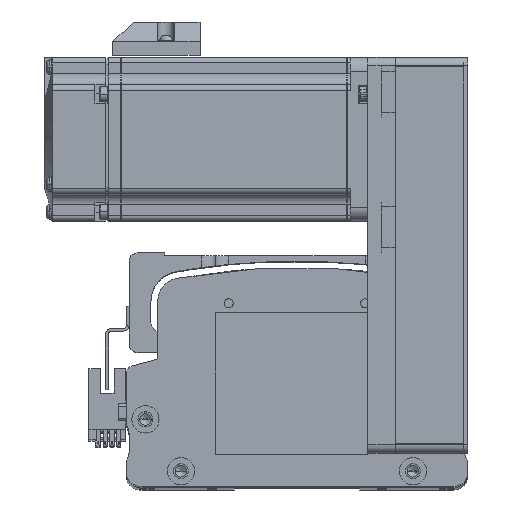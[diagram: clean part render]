
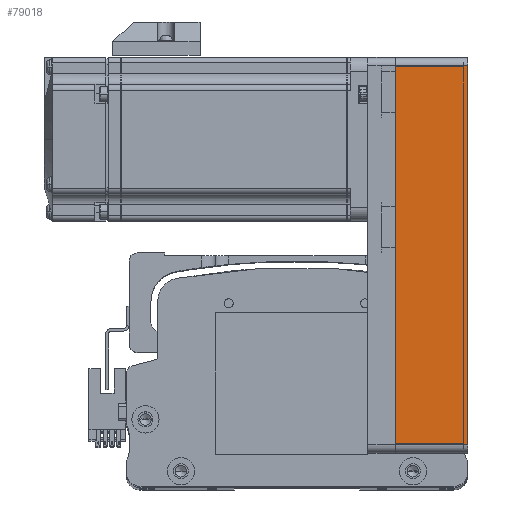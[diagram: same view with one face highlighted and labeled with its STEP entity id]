
A CAD part, top view. The second image highlights one B-rep face of the part: STEP entity #79018.
In plain terms, the highlighted planar face has unit normal (0, 0, 1) as drawn and (0, 1, 0) by its records, which use the part's own axes.
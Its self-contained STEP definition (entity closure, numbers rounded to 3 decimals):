
#4354 = CARTESIAN_POINT ( 'NONE',  ( 72.5, 30., 26.5 ) ) ;
#7015 = CARTESIAN_POINT ( 'NONE',  ( 72.5, 30., 0. ) ) ;
#7070 = VECTOR ( 'NONE', #34112, 1000. ) ;
#10547 = ORIENTED_EDGE ( 'NONE', *, *, #73607, .T. ) ;
#10602 = DIRECTION ( 'NONE',  ( 1., 0., 0. ) ) ;
#15477 = CARTESIAN_POINT ( 'NONE',  ( -69.5, 30., 26.5 ) ) ;
#16635 = CARTESIAN_POINT ( 'NONE',  ( 69.5, 30., 0. ) ) ;
#18177 = VECTOR ( 'NONE', #70025, 1000. ) ;
#22278 = FACE_OUTER_BOUND ( 'NONE', #51563, .T. ) ;
#24006 = VECTOR ( 'NONE', #38293, 1000. ) ;
#25588 = CARTESIAN_POINT ( 'NONE',  ( 69.5, 30., 26.5 ) ) ;
#27548 = EDGE_CURVE ( 'NONE', #58734, #35884, #40637, .T. ) ;
#31470 = CARTESIAN_POINT ( 'NONE',  ( 72.5, 30., 26.5 ) ) ;
#34112 = DIRECTION ( 'NONE',  ( 0., 0., 1. ) ) ;
#35884 = VERTEX_POINT ( 'NONE', #15477 ) ;
#37411 = ORIENTED_EDGE ( 'NONE', *, *, #72563, .T. ) ;
#38293 = DIRECTION ( 'NONE',  ( 0., 0., -1. ) ) ;
#40637 = LINE ( 'NONE', #71724, #7070 ) ;
#47129 = LINE ( 'NONE', #31470, #78627 ) ;
#48275 = CARTESIAN_POINT ( 'NONE',  ( 69.5, 30., 26.5 ) ) ;
#48428 = DIRECTION ( 'NONE',  ( 0., -1., 0. ) ) ;
#51563 = EDGE_LOOP ( 'NONE', ( #37411, #63829, #70411, #10547 ) ) ;
#51785 = LINE ( 'NONE', #7015, #18177 ) ;
#57545 = LINE ( 'NONE', #25588, #24006 ) ;
#58734 = VERTEX_POINT ( 'NONE', #60916 ) ;
#60824 = PLANE ( 'NONE',  #74808 ) ;
#60916 = CARTESIAN_POINT ( 'NONE',  ( -69.5, 30., 0. ) ) ;
#63829 = ORIENTED_EDGE ( 'NONE', *, *, #27548, .T. ) ;
#67491 = VERTEX_POINT ( 'NONE', #48275 ) ;
#68851 = DIRECTION ( 'NONE',  ( -1., 0., 0. ) ) ;
#70025 = DIRECTION ( 'NONE',  ( -1., 0., 0. ) ) ;
#70411 = ORIENTED_EDGE ( 'NONE', *, *, #75742, .F. ) ;
#71724 = CARTESIAN_POINT ( 'NONE',  ( -69.5, 30., 26.5 ) ) ;
#72362 = VERTEX_POINT ( 'NONE', #16635 ) ;
#72563 = EDGE_CURVE ( 'NONE', #72362, #58734, #51785, .T. ) ;
#73607 = EDGE_CURVE ( 'NONE', #67491, #72362, #57545, .T. ) ;
#74808 = AXIS2_PLACEMENT_3D ( 'NONE', #4354, #48428, #10602 ) ;
#75742 = EDGE_CURVE ( 'NONE', #67491, #35884, #47129, .T. ) ;
#78627 = VECTOR ( 'NONE', #68851, 1000. ) ;
#79018 = ADVANCED_FACE ( 'NONE', ( #22278 ), #60824, .F. ) ;
